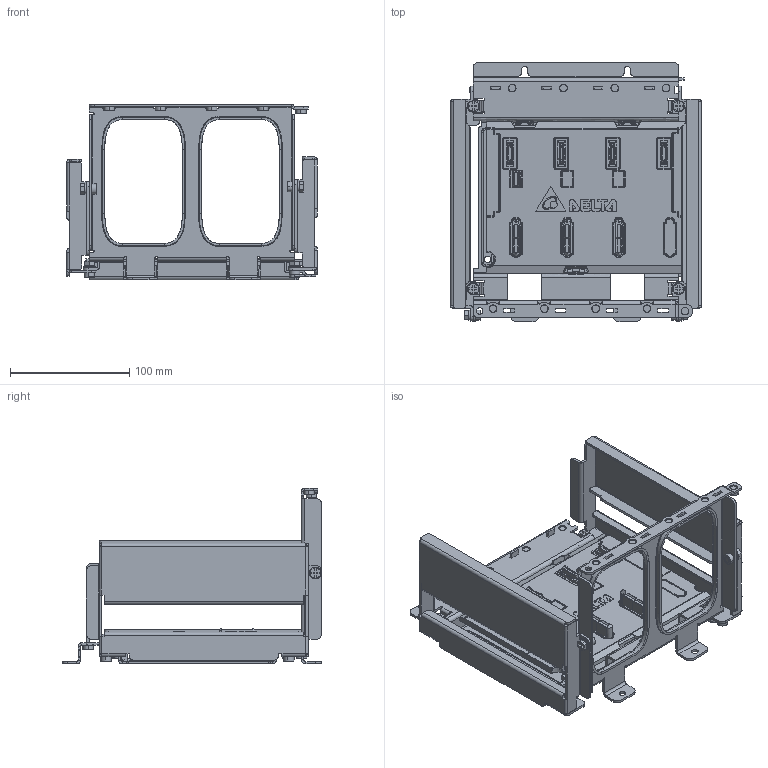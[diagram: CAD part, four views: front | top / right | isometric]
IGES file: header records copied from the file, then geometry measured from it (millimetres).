
Start section:  PTC IGES file: DELTA_IA-ASDA_W3-BP04_D-3D-IGS_20231107.igs
Global section: file name: DELTA_IA-ASDA_W3-BP04_D-3D-IGS_20231107.igs; native system: Creo Parametric by PTC Inc.; preprocessor: 2018400; author: FREDGT.HUANG; organization: Unknown; date: 20240216.145517; units: millimetre
Bounding box: 210 x 217 x 147.4 mm (x, y, z)
Surface area: 273824 mm2 (no closed solid volume)
Topology: 0 solids, 0 shells, 3639 faces, 19631 edges, 19610 vertices
Faces by surface type: bspline 2597, revolution 983, extrusion 59
